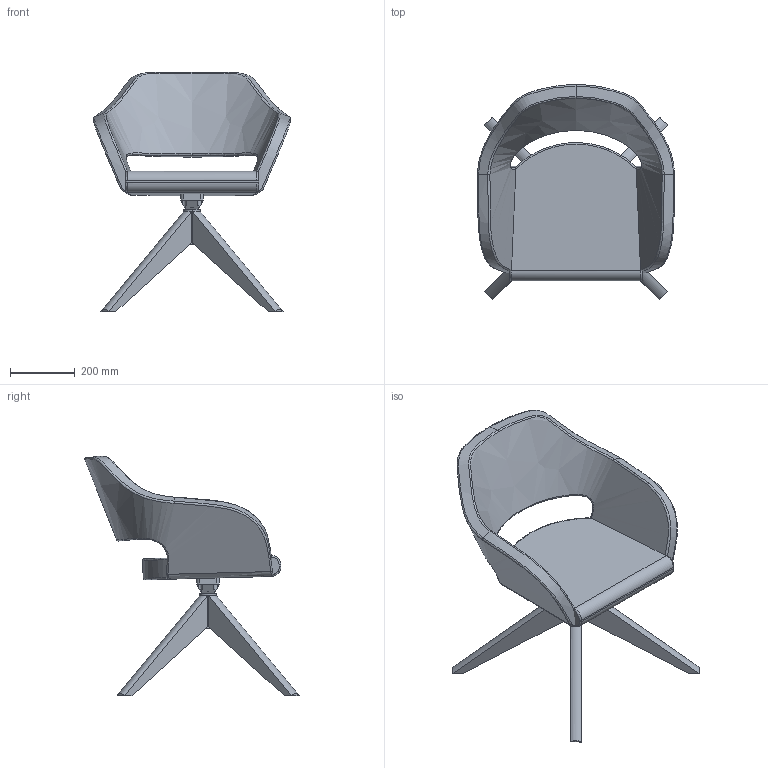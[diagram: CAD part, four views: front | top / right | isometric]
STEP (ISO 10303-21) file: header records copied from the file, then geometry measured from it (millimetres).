
FILE_DESCRIPTION(/* description */ (''),/* implementation_level */ '2;1');
FILE_NAME(/* name */ 'POLO_F~1',/* time_stamp */ '2019-06-19T13:50:59+02:00',/* author */ (''),/* organization */ (''),/* preprocessor_version */ 'ST-DEVELOPER v15',/* originating_system */ '',/* authorisation */ '');
FILE_SCHEMA (('AUTOMOTIVE_DESIGN'));
Length unit declared in the file: millimetre
Products named in the file (1): Document
Bounding box: 604.9 x 659.43 x 735.63 mm (x, y, z)
Volume: 10054003.6 mm3; surface area: 1428425.3 mm2
Topology: 1 solids, 8 shells, 124 faces, 319 edges, 204 vertices
Faces by surface type: bspline 82, plane 42
Entity records: 7018 total; most frequent: CARTESIAN_POINT 5108, ORIENTED_EDGE 580, EDGE_CURVE 318, VERTEX_POINT 202, B_SPLINE_CURVE_WITH_KNOTS 169, ADVANCED_FACE 124, FACE_OUTER_BOUND 124, EDGE_LOOP 124
